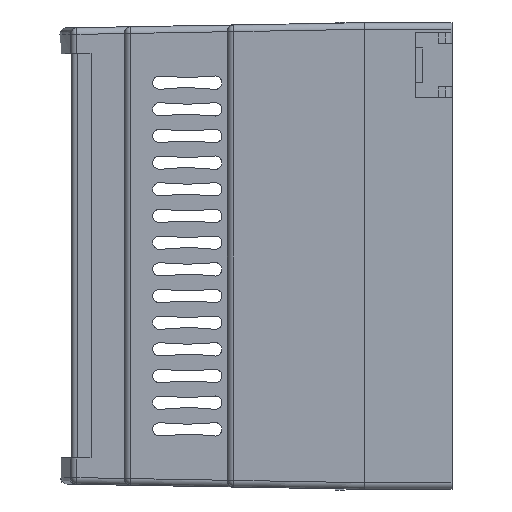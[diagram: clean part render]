
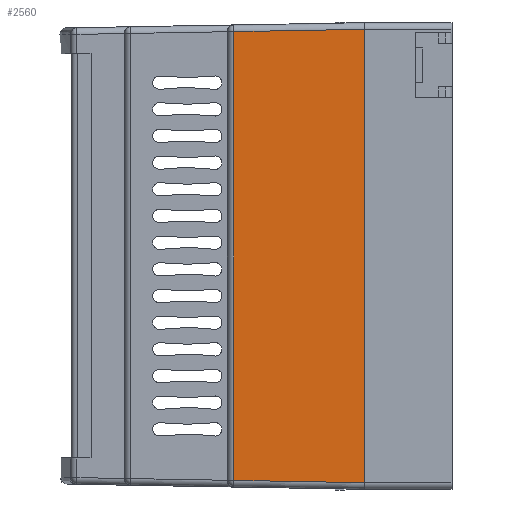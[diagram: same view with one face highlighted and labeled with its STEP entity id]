
A CAD part, left-side view. The second image highlights one B-rep face of the part: STEP entity #2560.
In plain terms, the highlighted planar face has unit normal (-1, 0.018, 0).
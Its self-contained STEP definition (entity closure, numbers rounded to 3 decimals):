
#411 = ORIENTED_EDGE ( 'NONE', *, *, #17445, .T. ) ;
#918 = CARTESIAN_POINT ( 'NONE',  ( -45.25, -22.867, -34. ) ) ;
#2560 = ADVANCED_FACE ( 'NONE', ( #3545 ), #9729, .T. ) ;
#2586 = EDGE_CURVE ( 'NONE', #3108, #21298, #10785, .T. ) ;
#3001 = VECTOR ( 'NONE', #16979, 1000. ) ;
#3108 = VERTEX_POINT ( 'NONE', #11918 ) ;
#3247 = CARTESIAN_POINT ( 'NONE',  ( -45.25, -22.85, -34. ) ) ;
#3545 = FACE_OUTER_BOUND ( 'NONE', #4462, .T. ) ;
#3654 = ORIENTED_EDGE ( 'NONE', *, *, #19491, .T. ) ;
#4439 = DIRECTION ( 'NONE',  ( 0.017, 1., -0.017 ) ) ;
#4462 = EDGE_LOOP ( 'NONE', ( #411, #3654, #20825, #8486 ) ) ;
#4519 = CARTESIAN_POINT ( 'NONE',  ( -44.891, -2.267, 33.641 ) ) ;
#4683 = VECTOR ( 'NONE', #5407, 1000. ) ;
#5407 = DIRECTION ( 'NONE',  ( 0., 0., -1. ) ) ;
#5553 = CARTESIAN_POINT ( 'NONE',  ( -44.908, -3.233, 35. ) ) ;
#8215 = CARTESIAN_POINT ( 'NONE',  ( -45.25, -22.85, 35. ) ) ;
#8486 = ORIENTED_EDGE ( 'NONE', *, *, #2586, .T. ) ;
#9137 = VERTEX_POINT ( 'NONE', #3247 ) ;
#9177 = LINE ( 'NONE', #8215, #3001 ) ;
#9517 = DIRECTION ( 'NONE',  ( -1., 0.017, 0. ) ) ;
#9729 = PLANE ( 'NONE',  #20198 ) ;
#10730 = VECTOR ( 'NONE', #16861, 1000. ) ;
#10785 = LINE ( 'NONE', #4519, #18111 ) ;
#11918 = CARTESIAN_POINT ( 'NONE',  ( -45.25, -22.85, 34. ) ) ;
#14301 = CARTESIAN_POINT ( 'NONE',  ( -44.908, -3.233, -33.658 ) ) ;
#14334 = VERTEX_POINT ( 'NONE', #14301 ) ;
#16071 = LINE ( 'NONE', #918, #10730 ) ;
#16814 = DIRECTION ( 'NONE',  ( -0.017, -1., 0. ) ) ;
#16861 = DIRECTION ( 'NONE',  ( -0.017, -1., -0.017 ) ) ;
#16979 = DIRECTION ( 'NONE',  ( 0., 0., -1. ) ) ;
#17445 = EDGE_CURVE ( 'NONE', #21298, #14334, #22885, .T. ) ;
#18111 = VECTOR ( 'NONE', #4439, 1000. ) ;
#19491 = EDGE_CURVE ( 'NONE', #14334, #9137, #16071, .T. ) ;
#20198 = AXIS2_PLACEMENT_3D ( 'NONE', #20247, #9517, #16814 ) ;
#20247 = CARTESIAN_POINT ( 'NONE',  ( -46.416, -89.645, 35. ) ) ;
#20708 = EDGE_CURVE ( 'NONE', #3108, #9137, #9177, .T. ) ;
#20825 = ORIENTED_EDGE ( 'NONE', *, *, #20708, .F. ) ;
#20908 = CARTESIAN_POINT ( 'NONE',  ( -44.908, -3.233, 33.658 ) ) ;
#21298 = VERTEX_POINT ( 'NONE', #20908 ) ;
#22885 = LINE ( 'NONE', #5553, #4683 ) ;
